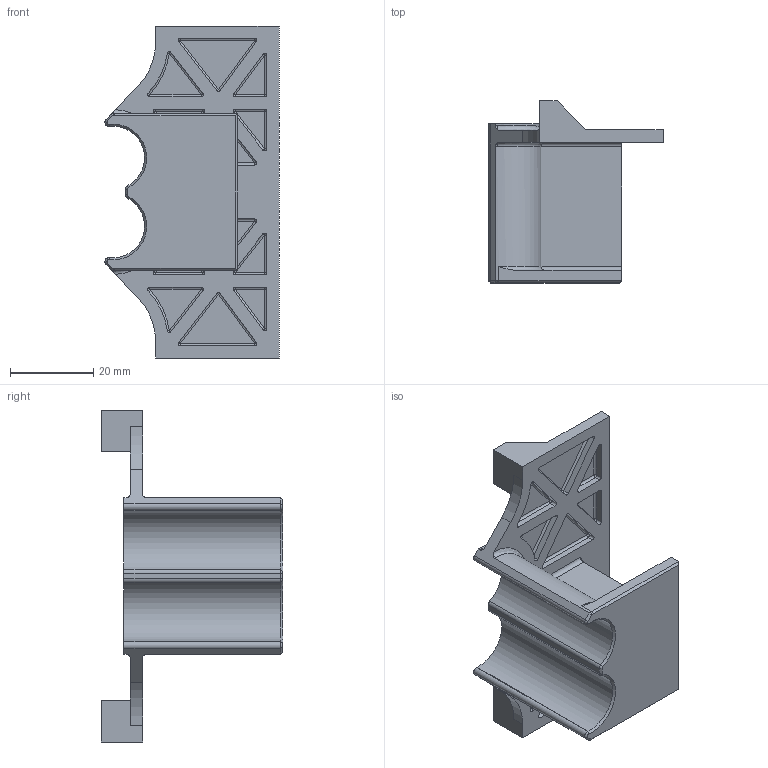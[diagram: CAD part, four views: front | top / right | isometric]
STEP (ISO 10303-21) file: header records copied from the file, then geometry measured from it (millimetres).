
FILE_DESCRIPTION (( 'STEP AP203' ), '1' );
FILE_NAME ('HIP_CALIBRATION.STEP');
FILE_SCHEMA (( 'CONFIG_CONTROL_DESIGN' ));
Length unit declared in the file: millimetre
Products named in the file (1): HIP_CALIBRATION
Bounding box: 41.97 x 43.8 x 80 mm (x, y, z)
Volume: 17958.1 mm3; surface area: 13932.6 mm2
Topology: 1 solids, 1 shells, 279 faces, 687 edges, 384 vertices
Faces by surface type: cylinder 115, plane 83, sphere 54, torus 17, cone 10
Entity records: 7755 total; most frequent: DIRECTION 1460, CARTESIAN_POINT 1341, ORIENTED_EDGE 1242, EDGE_CURVE 621, AXIS2_PLACEMENT_3D 573, VERTEX_POINT 358, LINE 314, VECTOR 314
